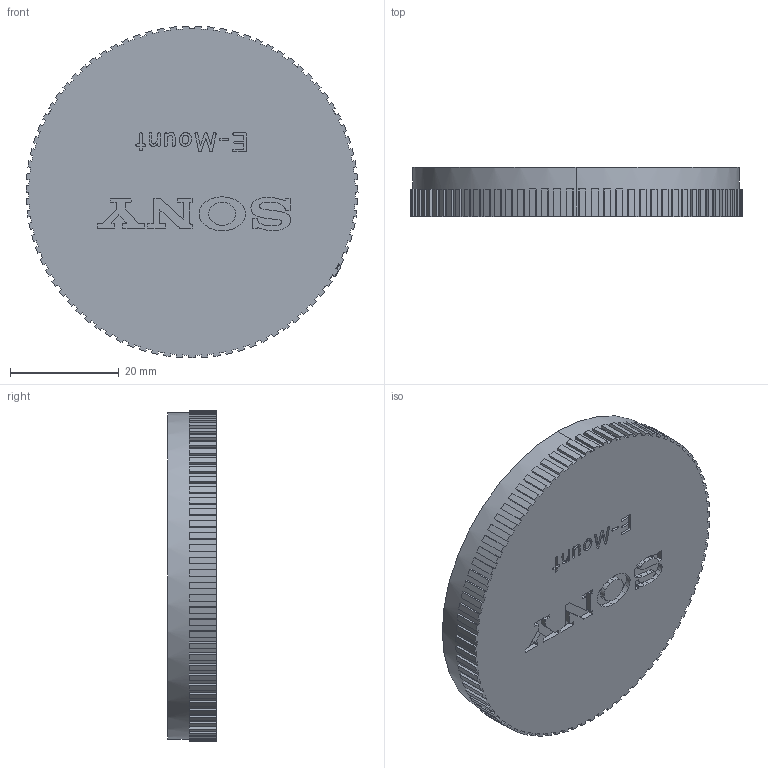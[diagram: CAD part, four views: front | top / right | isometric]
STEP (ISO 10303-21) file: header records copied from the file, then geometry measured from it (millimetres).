
FILE_DESCRIPTION (( 'STEP AP203' ), '1' );
FILE_NAME ('E-mount rear lenscap.STEP', '2019-08-14T16:37:53', ( '' ), ( '' ), 'SwSTEP 2.0', 'SolidWorks 2018', '' );
FILE_SCHEMA (( 'CONFIG_CONTROL_DESIGN' ));
Length unit declared in the file: millimetre
Products named in the file (1): E-mount rear lenscap
Bounding box: 61.01 x 9 x 61 mm (x, y, z)
Volume: 15413.3 mm3; surface area: 9058.8 mm2
Topology: 1 solids, 1 shells, 640 faces, 1869 edges, 1246 vertices
Faces by surface type: plane 406, bspline 218, cylinder 13, cone 3
Entity records: 24888 total; most frequent: CARTESIAN_POINT 9272, ORIENTED_EDGE 3738, DIRECTION 2427, EDGE_CURVE 1869, VERTEX_POINT 1246, LINE 1209, VECTOR 1209, EDGE_LOOP 655
